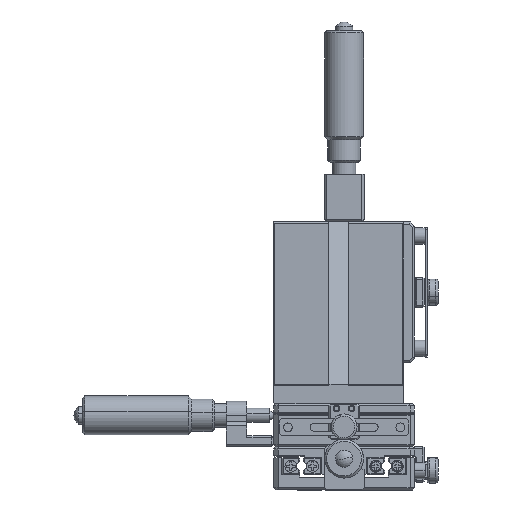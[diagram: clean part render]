
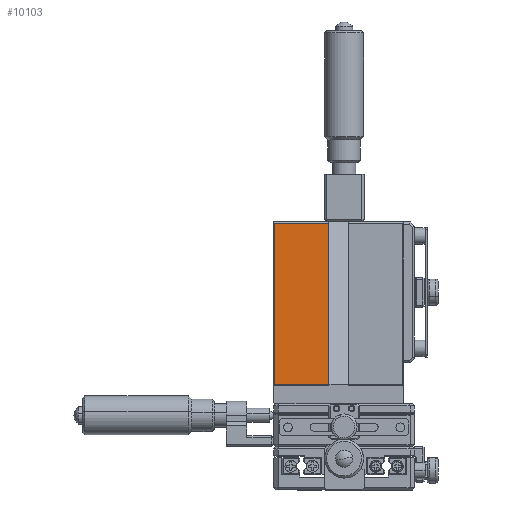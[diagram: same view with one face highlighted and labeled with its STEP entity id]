
A CAD part, front view. The second image highlights one B-rep face of the part: STEP entity #10103.
In plain terms, the highlighted planar face has unit normal (0, -1, 0) as drawn and (0, 0, 1) by its records, which use the part's own axes.
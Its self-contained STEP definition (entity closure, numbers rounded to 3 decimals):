
#250 = DIRECTION ( 'NONE',  ( -1., 0., 0. ) ) ;
#1183 = VECTOR ( 'NONE', #1869, 1000. ) ;
#1869 = DIRECTION ( 'NONE',  ( 0., -1., 0. ) ) ;
#2388 = LINE ( 'NONE', #8055, #5325 ) ;
#2475 = VERTEX_POINT ( 'NONE', #11464 ) ;
#3070 = ORIENTED_EDGE ( 'NONE', *, *, #10685, .T. ) ;
#3425 = VECTOR ( 'NONE', #9986, 1000. ) ;
#4125 = LINE ( 'NONE', #5157, #1183 ) ;
#4275 = AXIS2_PLACEMENT_3D ( 'NONE', #9901, #11019, #4308 ) ;
#4308 = DIRECTION ( 'NONE',  ( 1., 0., 0. ) ) ;
#4429 = ORIENTED_EDGE ( 'NONE', *, *, #12098, .F. ) ;
#5157 = CARTESIAN_POINT ( 'NONE',  ( -4.5, 42., 9. ) ) ;
#5270 = LINE ( 'NONE', #12744, #11240 ) ;
#5325 = VECTOR ( 'NONE', #250, 1000. ) ;
#5847 = CARTESIAN_POINT ( 'NONE',  ( -29.5, 41.5, 9. ) ) ;
#6013 = DIRECTION ( 'NONE',  ( 0., -1., 0. ) ) ;
#6714 = LINE ( 'NONE', #12216, #3425 ) ;
#7051 = VERTEX_POINT ( 'NONE', #8386 ) ;
#8055 = CARTESIAN_POINT ( 'NONE',  ( 62., -33., 9. ) ) ;
#8369 = EDGE_CURVE ( 'NONE', #7051, #13595, #6714, .T. ) ;
#8386 = CARTESIAN_POINT ( 'NONE',  ( -4.5, 41.5, 9. ) ) ;
#8764 = PLANE ( 'NONE',  #4275 ) ;
#9338 = ORIENTED_EDGE ( 'NONE', *, *, #8369, .T. ) ;
#9901 = CARTESIAN_POINT ( 'NONE',  ( 62., 0., 9. ) ) ;
#9986 = DIRECTION ( 'NONE',  ( -1., 0., 0. ) ) ;
#10103 = ADVANCED_FACE ( 'NONE', ( #12314 ), #8764, .T. ) ;
#10685 = EDGE_CURVE ( 'NONE', #13595, #14026, #5270, .T. ) ;
#11019 = DIRECTION ( 'NONE',  ( 0., 0., 1. ) ) ;
#11240 = VECTOR ( 'NONE', #6013, 1000. ) ;
#11464 = CARTESIAN_POINT ( 'NONE',  ( -4.5, -33., 9. ) ) ;
#11540 = EDGE_CURVE ( 'NONE', #7051, #2475, #4125, .T. ) ;
#11879 = ORIENTED_EDGE ( 'NONE', *, *, #11540, .F. ) ;
#12098 = EDGE_CURVE ( 'NONE', #2475, #14026, #2388, .T. ) ;
#12216 = CARTESIAN_POINT ( 'NONE',  ( -30., 41.5, 9. ) ) ;
#12314 = FACE_OUTER_BOUND ( 'NONE', #14355, .T. ) ;
#12744 = CARTESIAN_POINT ( 'NONE',  ( -29.5, -33., 9. ) ) ;
#13595 = VERTEX_POINT ( 'NONE', #5847 ) ;
#14026 = VERTEX_POINT ( 'NONE', #14346 ) ;
#14346 = CARTESIAN_POINT ( 'NONE',  ( -29.5, -33., 9. ) ) ;
#14355 = EDGE_LOOP ( 'NONE', ( #11879, #9338, #3070, #4429 ) ) ;
